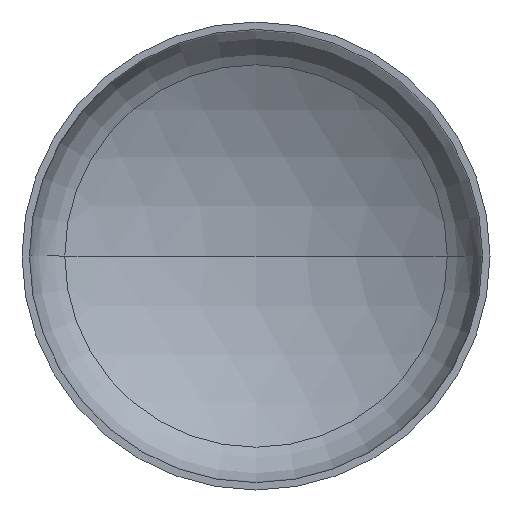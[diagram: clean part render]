
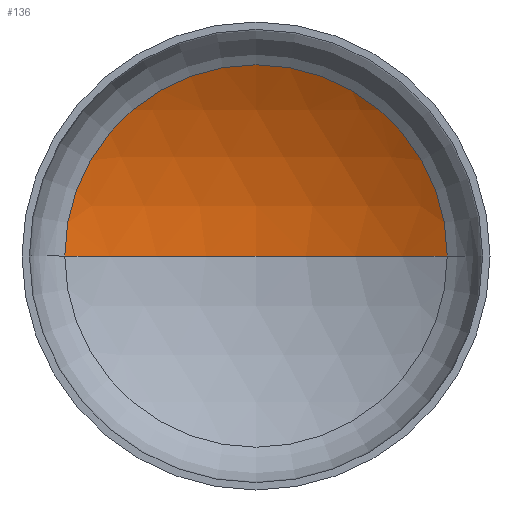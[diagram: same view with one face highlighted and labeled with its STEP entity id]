
A CAD part, front view. The second image highlights one B-rep face of the part: STEP entity #136.
In plain terms, the highlighted spherical face has radius 2720 mm.
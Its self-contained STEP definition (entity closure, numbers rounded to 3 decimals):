
#31 = AXIS2_PLACEMENT_3D ( 'NONE', #123, #102, #164 ) ;
#32 = AXIS2_PLACEMENT_3D ( 'NONE', #402, #270, #248 ) ;
#34 = AXIS2_PLACEMENT_3D ( 'NONE', #178, #338, #60 ) ;
#35 = AXIS2_PLACEMENT_3D ( 'NONE', #323, #149, #224 ) ;
#38 = ORIENTED_EDGE ( 'NONE', *, *, #137, .T. ) ;
#52 = VERTEX_POINT ( 'NONE', #95 ) ;
#53 = CIRCLE ( 'NONE', #34, 2720. ) ;
#60 = DIRECTION ( 'NONE',  ( -1., 0., 0. ) ) ;
#91 = EDGE_LOOP ( 'NONE', ( #141, #38, #191 ) ) ;
#95 = CARTESIAN_POINT ( 'NONE',  ( 1389.121, 571.372, 0. ) ) ;
#102 = DIRECTION ( 'NONE',  ( 0., 0., 1. ) ) ;
#112 = VERTEX_POINT ( 'NONE', #299 ) ;
#123 = CARTESIAN_POINT ( 'NONE',  ( 0., -1767.163, 0. ) ) ;
#127 = EDGE_CURVE ( 'NONE', #52, #112, #174, .T. ) ;
#136 = ADVANCED_FACE ( 'NONE', ( #166 ), #317, .F. ) ;
#137 = EDGE_CURVE ( 'NONE', #360, #52, #53, .T. ) ;
#141 = ORIENTED_EDGE ( 'NONE', *, *, #150, .F. ) ;
#149 = DIRECTION ( 'NONE',  ( 0., -1., 0. ) ) ;
#150 = EDGE_CURVE ( 'NONE', #360, #112, #251, .T. ) ;
#164 = DIRECTION ( 'NONE',  ( 1., 0., 0. ) ) ;
#166 = FACE_OUTER_BOUND ( 'NONE', #91, .T. ) ;
#174 = CIRCLE ( 'NONE', #35, 1389.121 ) ;
#178 = CARTESIAN_POINT ( 'NONE',  ( 0., -1767.163, 0. ) ) ;
#187 = CARTESIAN_POINT ( 'NONE',  ( 0., 952.837, 0. ) ) ;
#191 = ORIENTED_EDGE ( 'NONE', *, *, #127, .T. ) ;
#224 = DIRECTION ( 'NONE',  ( 1., 0., 0. ) ) ;
#248 = DIRECTION ( 'NONE',  ( -1., 0., 0. ) ) ;
#251 = CIRCLE ( 'NONE', #31, 2720. ) ;
#270 = DIRECTION ( 'NONE',  ( 0., 0., -1. ) ) ;
#299 = CARTESIAN_POINT ( 'NONE',  ( -1389.121, 571.372, 0. ) ) ;
#317 = SPHERICAL_SURFACE ( 'NONE', #32, 2720. ) ;
#323 = CARTESIAN_POINT ( 'NONE',  ( 0., 571.372, 0. ) ) ;
#338 = DIRECTION ( 'NONE',  ( 0., 0., -1. ) ) ;
#360 = VERTEX_POINT ( 'NONE', #187 ) ;
#402 = CARTESIAN_POINT ( 'NONE',  ( 0., -1767.163, 0. ) ) ;
